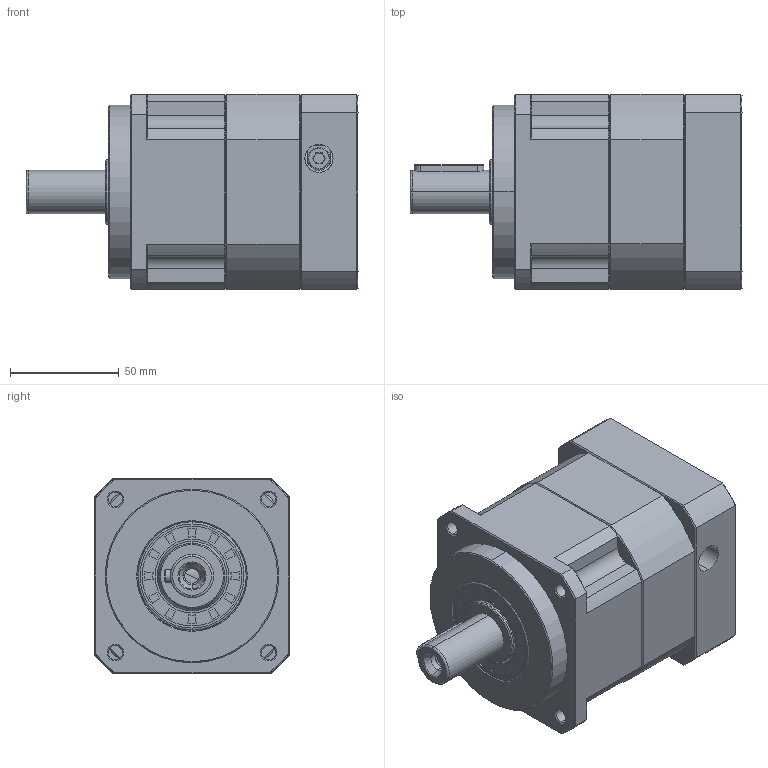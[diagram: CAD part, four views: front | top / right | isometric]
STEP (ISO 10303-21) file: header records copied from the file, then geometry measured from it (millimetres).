
FILE_DESCRIPTION (( 'STEP AP214' ), '1' );
FILE_NAME ('ZPB090-D20-L1-P1-12.7-73-69.6X69.6-M6.step', '2024-06-07T18:13:03', ( 'Windows 蚚誧' ), ( 'Organization' ), 'SwSTEP 2.0', 'SolidWorks 2016', '' );
FILE_SCHEMA (( 'AUTOMOTIVE_DESIGN' ));
Length unit declared in the file: millimetre
Products named in the file (1): ZPB090-D20-L1-P1-12.7-73-69.6X69.6-M6
Bounding box: 153 x 90 x 90 mm (x, y, z)
Surface area: 76752.1 mm2 (no closed solid volume)
Topology: 0 solids, 34 shells, 1831 faces, 4930 edges, 3151 vertices
Faces by surface type: plane 936, bspline 389, cone 278, cylinder 226, torus 2
Full cylindrical faces by diameter (mm): 6.72 x4
Entity records: 95606 total; most frequent: CARTESIAN_POINT 48250, ORIENTED_EDGE 9714, DIRECTION 7486, EDGE_CURVE 4876, VECTOR 3204, LINE 3204, VERTEX_POINT 3120, AXIS2_PLACEMENT_3D 2141
